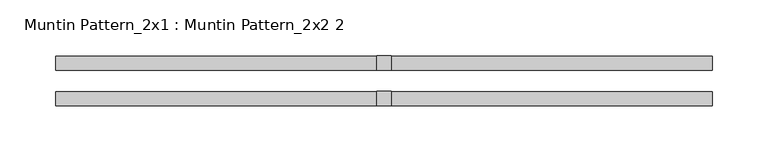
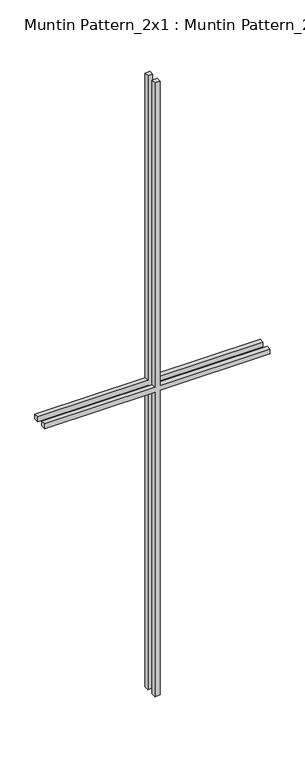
"""IFC4 building model written with IfcOpenShell, lengths in millimetres: proxy geometry, Muntin Pattern_2x1 : Muntin Pattern_2x2 2."""

from ifc_helpers import new_model, si_unit, frame, origin, place, context, project, spatial, polyline, outline, extrude, source, transform, mapped, element, save


def muntin_pattern_2x1_muntin_pattern_2x2_2_bff912c5(model_context):
    return source(origin(), model_context, "Body", "SweptSolid", [
        extrude(outline(polyline([(850.9, -6.35), (850.9, -293.6875), (838.2, -293.6875), (838.2, -6.35), (0.0, -6.35), (0.0, 6.35), (838.2, 6.35), (838.2, 293.6875), (850.9, 293.6875), (850.9, 6.35), (1689.1, 6.35), (1689.1, -6.35), (850.9, -6.35)])), frame((0.0, 9.525, 0.0), z_axis=(0.0, 1.0, 0.0), x_axis=(0.0, 0.0, 1.0)), (0.0, 0.0, 1.0), 12.7),
        extrude(outline(polyline([(850.9, -6.35), (850.9, -293.6875), (838.2, -293.6875), (838.2, -6.35), (0.0, -6.35), (0.0, 6.35), (838.2, 6.35), (838.2, 293.6875), (850.9, 293.6875), (850.9, 6.35), (1689.1, 6.35), (1689.1, -6.35), (850.9, -6.35)])), frame((0.0, -22.225, 0.0), z_axis=(0.0, 1.0, 0.0), x_axis=(0.0, 0.0, 1.0)), (0.0, 0.0, 1.0), 12.7),
    ])


if __name__ == "__main__":
    model = new_model("IFC4")
    model_context = context("Model", 3, world=origin())
    ifc_project = project(units=[si_unit("LENGTHUNIT", "METRE", prefix="MILLI")], contexts=[model_context])
    site = spatial("IfcSite", under=ifc_project)
    building = spatial("IfcBuilding", under=site)
    placement = place(None, origin())
    muntin_pattern_2x1_muntin_pattern_2x2_2_shape = muntin_pattern_2x1_muntin_pattern_2x2_2_bff912c5(model_context)
    element("IfcBuildingElementProxy", 1, Name="Muntin Pattern_2x1 : Muntin Pattern_2x2 2", ObjectType="Muntin Pattern_2x1 : Muntin Pattern_2x2 2", at=placement, inside=building, context=model_context, shape_type="MappedRepresentation", body=[
        mapped(muntin_pattern_2x1_muntin_pattern_2x2_2_shape, transform((0.0, 0.0, 0.0), x_axis=(1.0, 0.0, 0.0), y_axis=(0.0, 1.0, 0.0), z_axis=(0.0, 0.0, 1.0))),
    ])
    save(model, "model.ifc")
